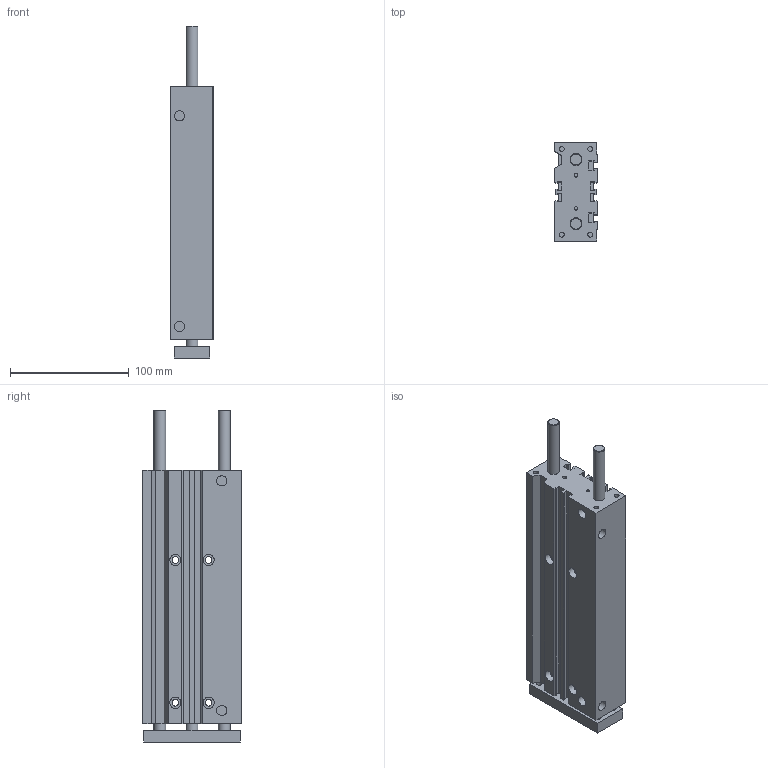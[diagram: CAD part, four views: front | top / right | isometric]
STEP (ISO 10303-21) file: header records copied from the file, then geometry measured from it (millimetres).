
FILE_DESCRIPTION((''),'2;1');
FILE_NAME('K:\A-Mauro\_Inventor\LIBRERIE\6100\6100_#_#_#\6100200175C.stp','2007-02-26T08:56:08',('valotma1'),(''),'Autodesk Inventor 11','Autodesk Inventor 11','');
FILE_SCHEMA(('AUTOMOTIVE_DESIGN { 1 0 10303 214 1 1 1 1 }'));
Length unit declared in the file: millimetre
Products named in the file (3): 6100200175C; CORPO Ø20 C175 C; PIASTRA Ø20 C175 C
Assembly tree (2 placements, depth 2):
  6100200175C
    CORPO Ø20 C175 C
    PIASTRA Ø20 C175 C
Bounding box: 36 x 83 x 279 mm (x, y, z)
Volume: 602708.3 mm3; surface area: 125575.4 mm2
Topology: 2 solids, 2 shells, 158 faces, 393 edges, 261 vertices
Faces by surface type: plane 95, bspline 52, cylinder 9, cone 2
Full cylindrical faces by diameter (mm): 10 x3
Entity records: 4932 total; most frequent: CARTESIAN_POINT 1329, ORIENTED_EDGE 702, DIRECTION 654, EDGE_CURVE 351, VECTOR 270, LINE 270, VERTEX_POINT 253, EDGE_LOOP 234
